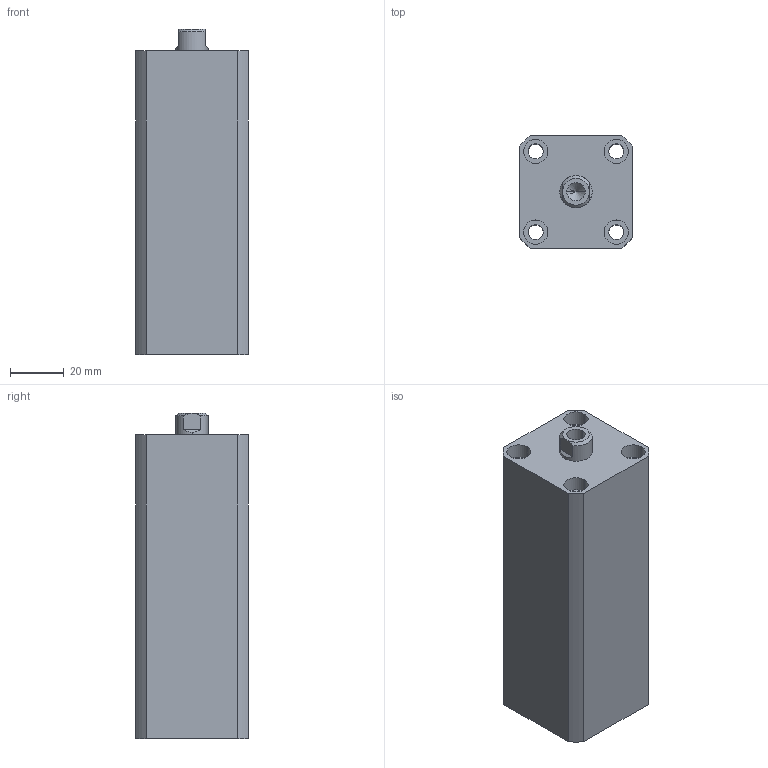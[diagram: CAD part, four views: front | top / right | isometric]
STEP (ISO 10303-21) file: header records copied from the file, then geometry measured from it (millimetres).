
FILE_DESCRIPTION (( 'STEP AP203' ), '1' );
FILE_NAME ('HTB-SDMB20-70N.STEP', '2019-10-09T00:08:46', ( '微软用户' ), ( '微软中国' ), 'SwSTEP 2.0', 'SolidWorks 2012', '' );
FILE_SCHEMA (( 'CONFIG_CONTROL_DESIGN' ));
Length unit declared in the file: millimetre
Products named in the file (3): HTB-SDMB20-70N; HTB-SDMB20-70N活塞杆; HTB-SDMB20-70掛极
Assembly tree (2 placements, depth 2):
  HTB-SDMB20-70N
    HTB-SDMB20-70掛极
    HTB-SDMB20-70N活塞杆
Bounding box: 42 x 42 x 121 mm (x, y, z)
Volume: 169024.4 mm3; surface area: 41832.2 mm2
Topology: 2 solids, 2 shells, 136 faces, 326 edges, 213 vertices
Faces by surface type: plane 64, cylinder 46, bspline 16, torus 6, cone 4
Entity records: 5023 total; most frequent: CARTESIAN_POINT 1570, ORIENTED_EDGE 648, DIRECTION 640, EDGE_CURVE 324, AXIS2_PLACEMENT_3D 231, VERTEX_POINT 213, LINE 178, VECTOR 178
